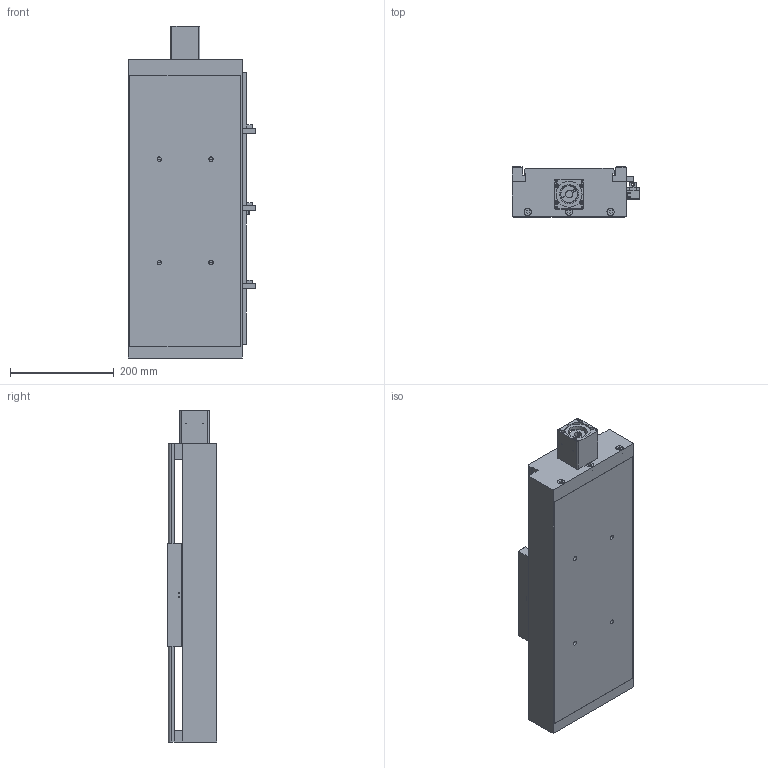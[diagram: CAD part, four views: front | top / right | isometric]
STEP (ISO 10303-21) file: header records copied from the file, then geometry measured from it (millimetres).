
FILE_DESCRIPTION((''),'2;1');
FILE_NAME('E:\libraries\UIA actuator library 2016\standard actuator\UIA220R20NDC\UIA220R20NDC ball screw 25\UIA220R20NDC-_ _ _-R25_ _ stp file, 01May16\UIA220R20NDC-300-R25_ _-M60-P13-C10-S.stp','2016-04-29T17:21:49',('h029'),(''),'Autodesk Inventor 11','Autodesk Inventor 11','');
FILE_SCHEMA(('AUTOMOTIVE_DESIGN { 1 0 10303 214 1 1 1 1 }'));
Length unit declared in the file: millimetre
Products named in the file (10): UIA220R20NDC-300-R25_ _; UIA220R20NDC-body; 41-100 0010 CARRIAGE; sensor rail; Sensor Switch; motor mount M60; SOH-32C; SOH-32C-3; SOH-32C-1; SOH-32C-2
Assembly tree (9 placements, depth 3):
  UIA220R20NDC-300-R25_ _
    UIA220R20NDC-body
    41-100 0010 CARRIAGE
    sensor rail
    Sensor Switch
    motor mount M60
    SOH-32C
      SOH-32C-3
      SOH-32C-1
      SOH-32C-2
Bounding box: 246.5 x 96 x 641 mm (x, y, z)
Volume: 4403722.8 mm3; surface area: 946469.5 mm2
Topology: 8 solids, 8 shells, 499 faces, 1341 edges, 881 vertices
Faces by surface type: plane 342, bspline 109, cylinder 46, cone 2
Full cylindrical faces by diameter (mm): 3.242 x2, 4.5 x2, 7 x4, 7.5 x2, 13.8 x3, 14 x6, 17 x1, 32 x3, 37 x1, 50.3 x1, 50.5 x1
Entity records: 16306 total; most frequent: CARTESIAN_POINT 4537, ORIENTED_EDGE 2296, DIRECTION 2245, EDGE_CURVE 1148, VECTOR 849, LINE 849, VERTEX_POINT 807, EDGE_LOOP 709
